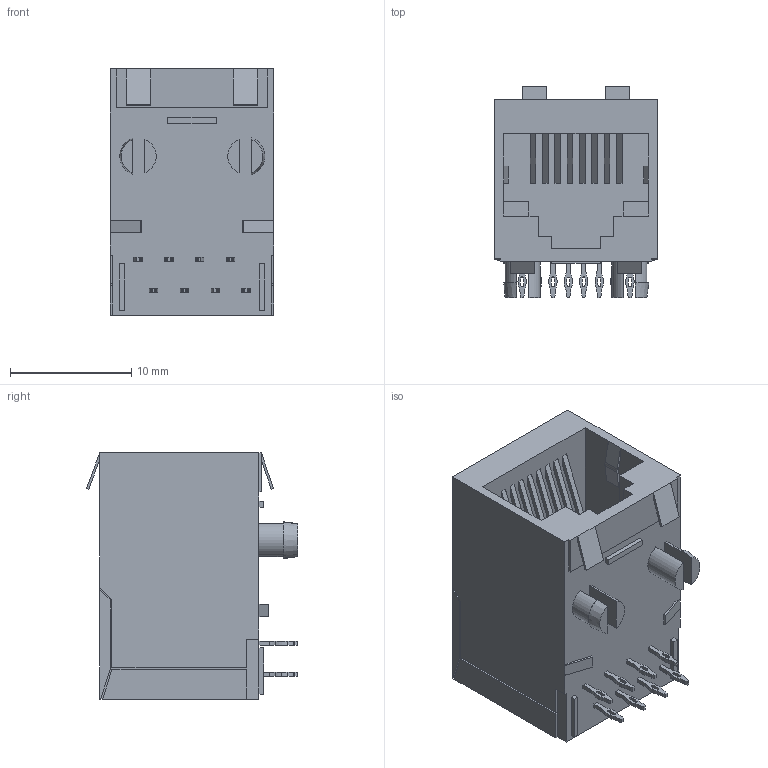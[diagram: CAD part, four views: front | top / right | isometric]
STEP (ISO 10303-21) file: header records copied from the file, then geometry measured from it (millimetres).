
FILE_DESCRIPTION (( 'STEP AP203' ), '1' );
FILE_NAME ('M-RJE56-188-1X10-REVT1.STEP', '2012-09-11T13:56:50', ( '' ), ( '' ), 'SwSTEP 2.0', 'SolidWorks 2012', '' );
FILE_SCHEMA (( 'CONFIG_CONTROL_DESIGN' ));
Length unit declared in the file: millimetre
Products named in the file (1): M-RJE56-188-1X10-REVT1
Bounding box: 13.5 x 17.4 x 20.3 mm (x, y, z)
Volume: 2544.3 mm3; surface area: 2299 mm2
Topology: 1 solids, 1 shells, 336 faces, 938 edges, 620 vertices
Faces by surface type: plane 230, cylinder 104, cone 2
Entity records: 10891 total; most frequent: CARTESIAN_POINT 1907, ORIENTED_EDGE 1876, DIRECTION 1820, EDGE_CURVE 938, LINE 722, VECTOR 722, VERTEX_POINT 620, AXIS2_PLACEMENT_3D 549
